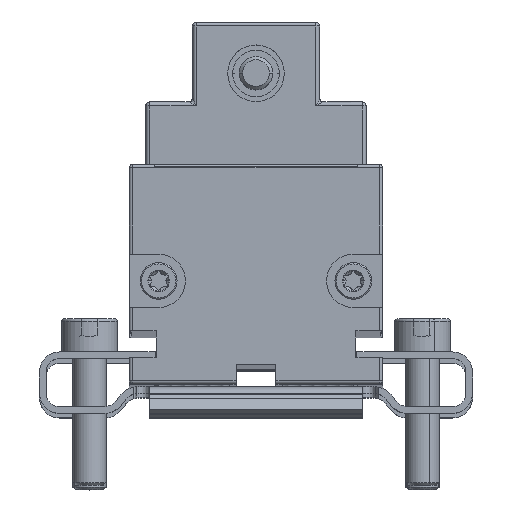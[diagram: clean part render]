
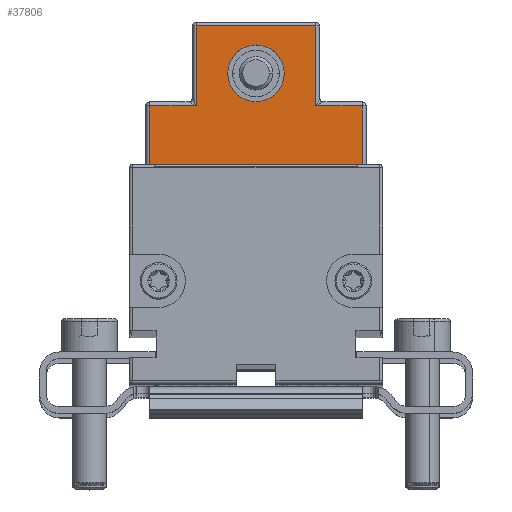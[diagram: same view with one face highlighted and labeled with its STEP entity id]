
A CAD part, top view. The second image highlights one B-rep face of the part: STEP entity #37806.
In plain terms, the highlighted planar face has unit normal (0, 0, 1).
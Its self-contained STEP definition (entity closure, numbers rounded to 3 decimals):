
#30490 = CARTESIAN_POINT ( 'NONE',  ( 0., 51.75, 104.1 ) ) ;
#30491 = DIRECTION ( 'NONE',  ( 0., 1., 0. ) ) ;
#30492 = DIRECTION ( 'NONE',  ( 0., 0., 1. ) ) ;
#30493 = CARTESIAN_POINT ( 'NONE',  ( 0., 47.5, 104.1 ) ) ;
#30494 = AXIS2_PLACEMENT_3D ( 'NONE', #30493, #30492, #30491 ) ;
#30495 = CIRCLE ( 'NONE', #30494, 4.25 ) ;
#30497 = CARTESIAN_POINT ( 'NONE',  ( 0., 43.25, 104.1 ) ) ;
#30785 = DIRECTION ( 'NONE',  ( -1., 0., 0. ) ) ;
#30787 = VECTOR ( 'NONE', #30785, 1000. ) ;
#30789 = CARTESIAN_POINT ( 'NONE',  ( -15.95, 31.2, 104.1 ) ) ;
#30819 = LINE ( 'NONE', #30789, #30787 ) ;
#30825 = CARTESIAN_POINT ( 'NONE',  ( -15.95, 31.2, 104.1 ) ) ;
#30866 = CARTESIAN_POINT ( 'NONE',  ( -9.75, 31.2, 104.1 ) ) ;
#32688 = DIRECTION ( 'NONE',  ( 0., -1., 0. ) ) ;
#32690 = VECTOR ( 'NONE', #32688, 1000. ) ;
#32691 = CARTESIAN_POINT ( 'NONE',  ( -8.95, 31.3, 104.1 ) ) ;
#32693 = LINE ( 'NONE', #32691, #32690 ) ;
#32699 = CARTESIAN_POINT ( 'NONE',  ( -8.95, 54.6, 104.1 ) ) ;
#32701 = DIRECTION ( 'NONE',  ( -1., 0., 0. ) ) ;
#32703 = VECTOR ( 'NONE', #32701, 1000. ) ;
#32705 = CARTESIAN_POINT ( 'NONE',  ( -15.25, 54.6, 104.1 ) ) ;
#32706 = LINE ( 'NONE', #32705, #32703 ) ;
#32711 = CARTESIAN_POINT ( 'NONE',  ( 8.95, 54.6, 104.1 ) ) ;
#32713 = DIRECTION ( 'NONE',  ( 0., 1., 0. ) ) ;
#32715 = VECTOR ( 'NONE', #32713, 1000. ) ;
#32716 = CARTESIAN_POINT ( 'NONE',  ( 8.95, 55.2, 104.1 ) ) ;
#32718 = LINE ( 'NONE', #32716, #32715 ) ;
#32723 = CARTESIAN_POINT ( 'NONE',  ( 8.95, 42.6, 104.1 ) ) ;
#32733 = DIRECTION ( 'NONE',  ( -1., 0., 0. ) ) ;
#32734 = VECTOR ( 'NONE', #32733, 1000. ) ;
#32736 = CARTESIAN_POINT ( 'NONE',  ( -15.95, 31.2, 104.1 ) ) ;
#32737 = LINE ( 'NONE', #32736, #32734 ) ;
#32741 = CARTESIAN_POINT ( 'NONE',  ( 9.75, 31.2, 104.1 ) ) ;
#32744 = DIRECTION ( 'NONE',  ( 0., 1., 0. ) ) ;
#32745 = VECTOR ( 'NONE', #32744, 1000. ) ;
#32747 = CARTESIAN_POINT ( 'NONE',  ( 9.75, 31., 104.1 ) ) ;
#32748 = LINE ( 'NONE', #32747, #32745 ) ;
#32754 = CARTESIAN_POINT ( 'NONE',  ( 9.75, 31., 104.1 ) ) ;
#32756 = DIRECTION ( 'NONE',  ( -1., 0., 0. ) ) ;
#32758 = VECTOR ( 'NONE', #32756, 1000. ) ;
#32759 = CARTESIAN_POINT ( 'NONE',  ( 9.75, 31., 104.1 ) ) ;
#32760 = LINE ( 'NONE', #32759, #32758 ) ;
#32765 = CARTESIAN_POINT ( 'NONE',  ( -9.75, 31., 104.1 ) ) ;
#32766 = DIRECTION ( 'NONE',  ( 0., 1., 0. ) ) ;
#32768 = VECTOR ( 'NONE', #32766, 1000. ) ;
#32770 = CARTESIAN_POINT ( 'NONE',  ( -9.75, 31., 104.1 ) ) ;
#32780 = LINE ( 'NONE', #32770, #32768 ) ;
#32797 = DIRECTION ( 'NONE',  ( 0., -1., 0. ) ) ;
#32799 = DIRECTION ( 'NONE',  ( 0., 0., -1. ) ) ;
#32801 = CARTESIAN_POINT ( 'NONE',  ( -15.25, 31.3, 104.1 ) ) ;
#32802 = AXIS2_PLACEMENT_3D ( 'NONE', #32801, #32799, #32797 ) ;
#32806 = PLANE ( 'NONE',  #32802 ) ;
#32845 = FACE_OUTER_BOUND ( 'NONE', #37817, .T. ) ;
#32847 = FACE_BOUND ( 'NONE', #37807, .T. ) ;
#32861 = CARTESIAN_POINT ( 'NONE',  ( 15.95, 31.2, 104.1 ) ) ;
#32909 = DIRECTION ( 'NONE',  ( 0., -1., 0. ) ) ;
#32911 = VECTOR ( 'NONE', #32909, 1000. ) ;
#32913 = CARTESIAN_POINT ( 'NONE',  ( -15.95, 31.3, 104.1 ) ) ;
#32914 = LINE ( 'NONE', #32913, #32911 ) ;
#32918 = CARTESIAN_POINT ( 'NONE',  ( -15.95, 42.6, 104.1 ) ) ;
#32920 = CARTESIAN_POINT ( 'NONE',  ( -8.95, 42.6, 104.1 ) ) ;
#32922 = DIRECTION ( 'NONE',  ( -1., 0., 0. ) ) ;
#32924 = VECTOR ( 'NONE', #32922, 1000. ) ;
#32926 = CARTESIAN_POINT ( 'NONE',  ( -16.55, 42.6, 104.1 ) ) ;
#32929 = DIRECTION ( 'NONE',  ( 0., 1., 0. ) ) ;
#32931 = DIRECTION ( 'NONE',  ( 0., 0., 1. ) ) ;
#32933 = CARTESIAN_POINT ( 'NONE',  ( 0., 47.5, 104.1 ) ) ;
#32934 = AXIS2_PLACEMENT_3D ( 'NONE', #32933, #32931, #32929 ) ;
#32936 = CIRCLE ( 'NONE', #32934, 4.25 ) ;
#32937 = LINE ( 'NONE', #32926, #32924 ) ;
#33183 = DIRECTION ( 'NONE',  ( -1., 0., 0. ) ) ;
#33184 = VECTOR ( 'NONE', #33183, 1000. ) ;
#33186 = CARTESIAN_POINT ( 'NONE',  ( -15.25, 42.6, 104.1 ) ) ;
#33187 = LINE ( 'NONE', #33186, #33184 ) ;
#33195 = CARTESIAN_POINT ( 'NONE',  ( 15.95, 42.6, 104.1 ) ) ;
#33197 = DIRECTION ( 'NONE',  ( 0., 1., 0. ) ) ;
#33199 = VECTOR ( 'NONE', #33197, 1000. ) ;
#33201 = CARTESIAN_POINT ( 'NONE',  ( 15.95, 31.3, 104.1 ) ) ;
#33203 = LINE ( 'NONE', #33201, #33199 ) ;
#37275 = VERTEX_POINT ( 'NONE', #30497 ) ;
#37280 = EDGE_CURVE ( 'NONE', #37275, #37281, #30495, .T. ) ;
#37281 = VERTEX_POINT ( 'NONE', #30490 ) ;
#37337 = VERTEX_POINT ( 'NONE', #30825 ) ;
#37344 = EDGE_CURVE ( 'NONE', #37357, #37337, #30819, .T. ) ;
#37357 = VERTEX_POINT ( 'NONE', #30866 ) ;
#37768 = VERTEX_POINT ( 'NONE', #32723 ) ;
#37769 = ORIENTED_EDGE ( 'NONE', *, *, #37771, .T. ) ;
#37771 = EDGE_CURVE ( 'NONE', #37768, #37772, #32718, .T. ) ;
#37772 = VERTEX_POINT ( 'NONE', #32711 ) ;
#37773 = ORIENTED_EDGE ( 'NONE', *, *, #37775, .T. ) ;
#37775 = EDGE_CURVE ( 'NONE', #37772, #37777, #32706, .T. ) ;
#37777 = VERTEX_POINT ( 'NONE', #32699 ) ;
#37779 = ORIENTED_EDGE ( 'NONE', *, *, #37781, .T. ) ;
#37781 = EDGE_CURVE ( 'NONE', #37777, #37823, #32693, .T. ) ;
#37786 = ORIENTED_EDGE ( 'NONE', *, *, #37344, .F. ) ;
#37787 = ORIENTED_EDGE ( 'NONE', *, *, #37789, .F. ) ;
#37789 = EDGE_CURVE ( 'NONE', #37790, #37357, #32780, .T. ) ;
#37790 = VERTEX_POINT ( 'NONE', #32765 ) ;
#37791 = ORIENTED_EDGE ( 'NONE', *, *, #37792, .F. ) ;
#37792 = EDGE_CURVE ( 'NONE', #37793, #37790, #32760, .T. ) ;
#37793 = VERTEX_POINT ( 'NONE', #32754 ) ;
#37794 = ORIENTED_EDGE ( 'NONE', *, *, #37795, .T. ) ;
#37795 = EDGE_CURVE ( 'NONE', #37793, #37797, #32748, .T. ) ;
#37797 = VERTEX_POINT ( 'NONE', #32741 ) ;
#37798 = ORIENTED_EDGE ( 'NONE', *, *, #37799, .F. ) ;
#37799 = EDGE_CURVE ( 'NONE', #37801, #37797, #32737, .T. ) ;
#37801 = VERTEX_POINT ( 'NONE', #32861 ) ;
#37802 = ORIENTED_EDGE ( 'NONE', *, *, #37915, .T. ) ;
#37806 = ADVANCED_FACE ( 'NONE', ( #32847, #32845 ), #32806, .F. ) ;
#37807 = EDGE_LOOP ( 'NONE', ( #37809, #37814 ) ) ;
#37809 = ORIENTED_EDGE ( 'NONE', *, *, #37811, .F. ) ;
#37811 = EDGE_CURVE ( 'NONE', #37281, #37275, #32936, .T. ) ;
#37814 = ORIENTED_EDGE ( 'NONE', *, *, #37280, .F. ) ;
#37817 = EDGE_LOOP ( 'NONE', ( #37819, #37827, #37786, #37787, #37791, #37794, #37798, #37802, #37917, #37769, #37773, #37779 ) ) ;
#37819 = ORIENTED_EDGE ( 'NONE', *, *, #37821, .T. ) ;
#37821 = EDGE_CURVE ( 'NONE', #37823, #37825, #32937, .T. ) ;
#37823 = VERTEX_POINT ( 'NONE', #32920 ) ;
#37825 = VERTEX_POINT ( 'NONE', #32918 ) ;
#37827 = ORIENTED_EDGE ( 'NONE', *, *, #37829, .T. ) ;
#37829 = EDGE_CURVE ( 'NONE', #37825, #37337, #32914, .T. ) ;
#37915 = EDGE_CURVE ( 'NONE', #37801, #37916, #33203, .T. ) ;
#37916 = VERTEX_POINT ( 'NONE', #33195 ) ;
#37917 = ORIENTED_EDGE ( 'NONE', *, *, #37919, .T. ) ;
#37919 = EDGE_CURVE ( 'NONE', #37916, #37768, #33187, .T. ) ;
